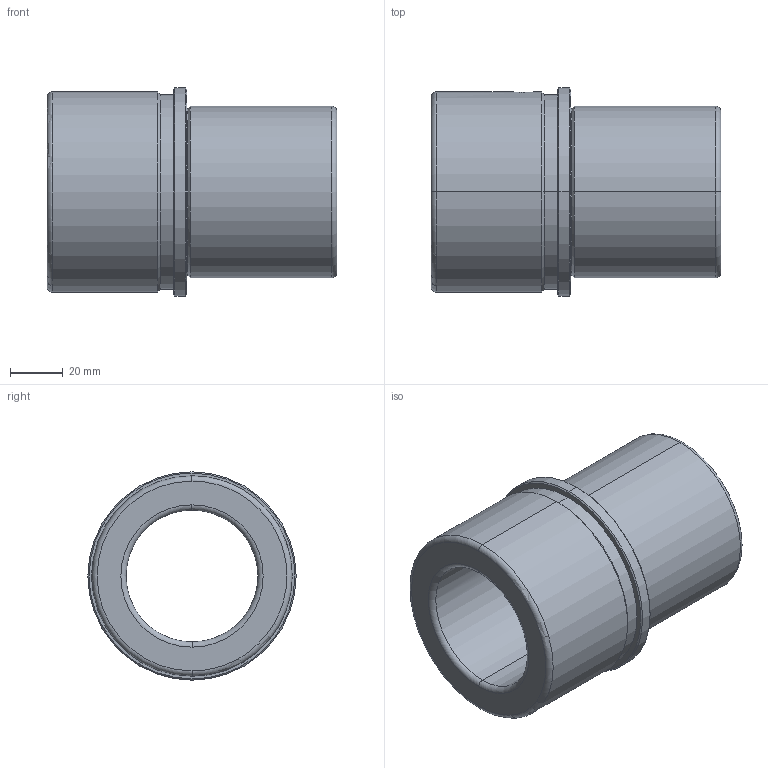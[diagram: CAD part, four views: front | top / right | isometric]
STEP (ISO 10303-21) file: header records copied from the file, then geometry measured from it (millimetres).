
FILE_DESCRIPTION(('CATIA V5 STEP Exchange'),'2;1');
FILE_NAME('C:\Users\Utente\Desktop\IO LAVORO\3D X SITO CF\X SITO\FAMO\FAMO-SF1-D50 x 110.stp','2021-01-06T17:05:06+00:00',('none'),('none'),'CATIA Version 5 Release 20 GA (IN-10)','CATIA V5 STEP AP203','none');
FILE_SCHEMA(('CONFIG_CONTROL_DESIGN'));
Length unit declared in the file: millimetre
Products named in the file (1): FAMO-SF1-D50 x 110
Bounding box: 110 x 79 x 79 mm (x, y, z)
Volume: 212116.3 mm3; surface area: 47795.5 mm2
Topology: 1 solids, 1 shells, 37 faces, 126 edges, 94 vertices
Faces by surface type: cylinder 14, cone 10, torus 8, plane 5
Entity records: 1675 total; most frequent: CARTESIAN_POINT 545, ORIENTED_EDGE 252, DIRECTION 179, EDGE_CURVE 126, AXIS2_PLACEMENT_3D 119, VERTEX_POINT 94, CIRCLE 81, EDGE_LOOP 44
